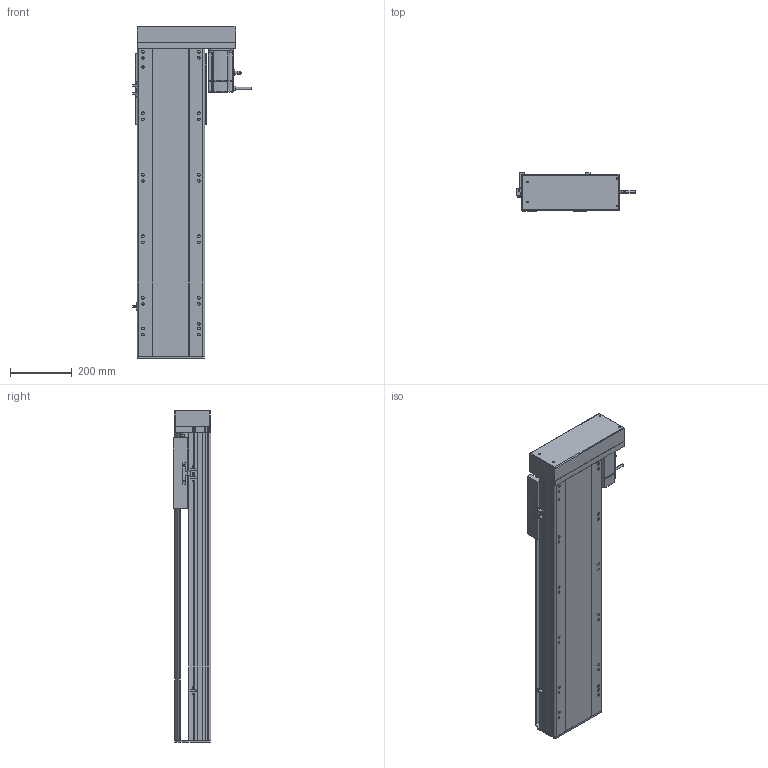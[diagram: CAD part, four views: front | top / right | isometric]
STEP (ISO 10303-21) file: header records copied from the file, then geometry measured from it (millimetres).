
FILE_DESCRIPTION (( 'STEP AP214' ), '1' );
FILE_NAME ('RTH22-XX-700-L-M75-C4.STEP', '2025-10-24T10:58:30', ( 'Microsoft' ), ( 'Microsoft' ), 'SwSTEP 2.0', 'SolidWorks 2018', '' );
FILE_SCHEMA (( 'AUTOMOTIVE_DESIGN' ));
Length unit declared in the file: millimetre
Products named in the file (10): N_RTH22-L-004-SFS25賑釱^RTH22-XX-XX-L-M75-C4; N_RTH22-L-011菁釱^RTH22-XX-XX-L-M75-C4; N_750W萇儂^RTH22-XX-XX-L-M75-C4; N_RTH22-L-007奻裔^RTH22-XX-XX-L-M75-C4; N_RTH22-GY-013外置感应片^RTH22-XX-XX-L-M75-C4; N_RTH22-L-018裔赽^RTH22-XX-XX-L-M75-C4; N_RTH22-L-008-P75萇儂啣^RTH22-XX-XX-L-M75-C4; N_RTH22-GY-001耜裔^RTH22-XX-XX-L-M75-C4; RTH22-XX-700-L-M75-C4; N_OMRON EE-SX672 传感器^RTH22-XX-XX-L-M75-C4
Assembly tree (11 placements, depth 2):
  RTH22-XX-700-L-M75-C4
    N_RTH22-L-011菁釱^RTH22-XX-XX-L-M75-C4
    N_RTH22-GY-001耜裔^RTH22-XX-XX-L-M75-C4
    N_750W萇儂^RTH22-XX-XX-L-M75-C4
    N_RTH22-L-008-P75萇儂啣^RTH22-XX-XX-L-M75-C4
    N_RTH22-L-007奻裔^RTH22-XX-XX-L-M75-C4
    N_RTH22-L-018裔赽^RTH22-XX-XX-L-M75-C4
    N_OMRON EE-SX672 传感器^RTH22-XX-XX-L-M75-C4  x3
    N_RTH22-GY-013外置感应片^RTH22-XX-XX-L-M75-C4
    N_RTH22-L-004-SFS25賑釱^RTH22-XX-XX-L-M75-C4
Bounding box: 384.7 x 122 x 1079.7 mm (x, y, z)
Volume: 15393538.6 mm3; surface area: 1767870.8 mm2
Topology: 11 solids, 11 shells, 1588 faces, 4329 edges, 2791 vertices
Faces by surface type: plane 793, cylinder 458, bspline 279, cone 58
Entity records: 39677 total; most frequent: CARTESIAN_POINT 12114, ORIENTED_EDGE 5634, DIRECTION 5307, EDGE_CURVE 2817, VERTEX_POINT 1827, AXIS2_PLACEMENT_3D 1780, VECTOR 1747, LINE 1747
